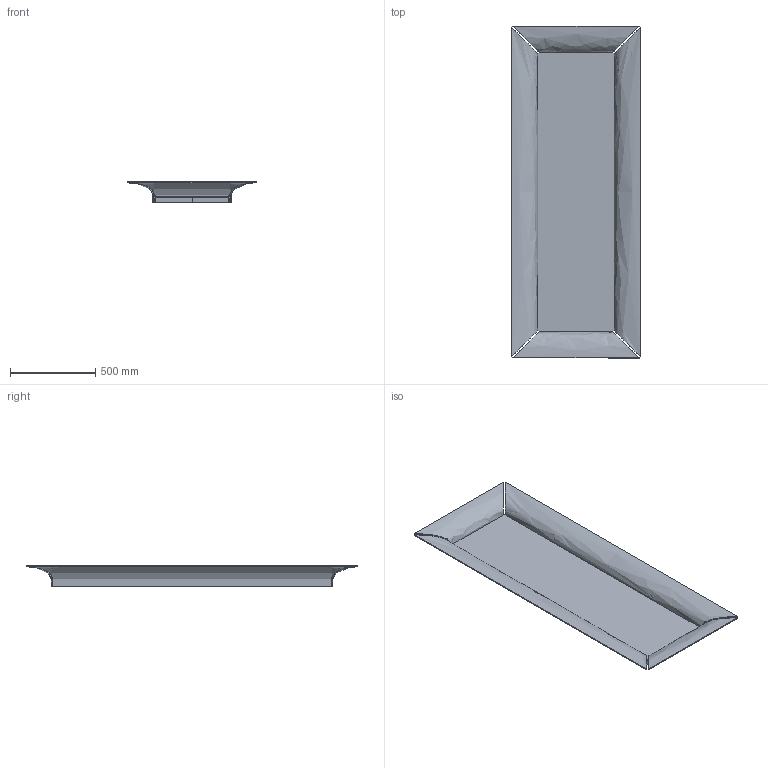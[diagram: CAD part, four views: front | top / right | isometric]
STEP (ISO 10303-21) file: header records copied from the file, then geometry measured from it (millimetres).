
FILE_DESCRIPTION(/* description */ (''),/* implementation_level */ '2;1');
FILE_NAME(/* name */ '500Sx - Caadre - 76x195 da terra',/* time_stamp */ '2010-11-02T14:10:49+01:00',/* author */ (''),/* organization */ (''),/* preprocessor_version */ 'ST-DEVELOPER v10',/* originating_system */ '',/* authorisation */ '');
FILE_SCHEMA (('CONFIG_CONTROL_DESIGN'));
Length unit declared in the file: centimetre
Products named in the file (1): 1
Bounding box: 756 x 1946 x 119 mm (x, y, z)
Volume: 14532282 mm3; surface area: 4140418.1 mm2
Topology: 6 solids, 6 shells, 64 faces, 148 edges, 92 vertices
Faces by surface type: bspline 42, plane 22
Entity records: 3446 total; most frequent: CARTESIAN_POINT 2360, ORIENTED_EDGE 296, EDGE_CURVE 148, B_SPLINE_CURVE_WITH_KNOTS 148, VERTEX_POINT 92, ADVANCED_FACE 64, FACE_OUTER_BOUND 64, EDGE_LOOP 64
